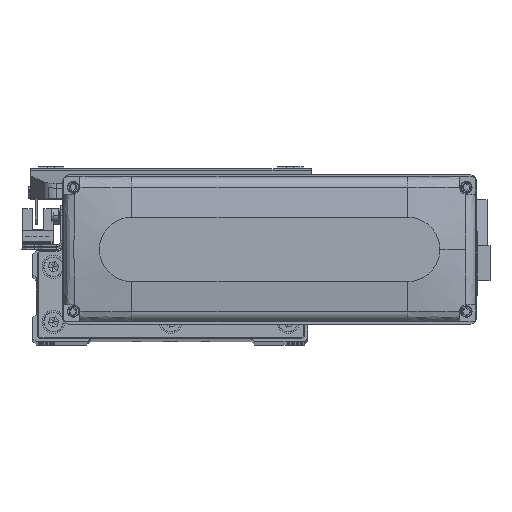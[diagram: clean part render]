
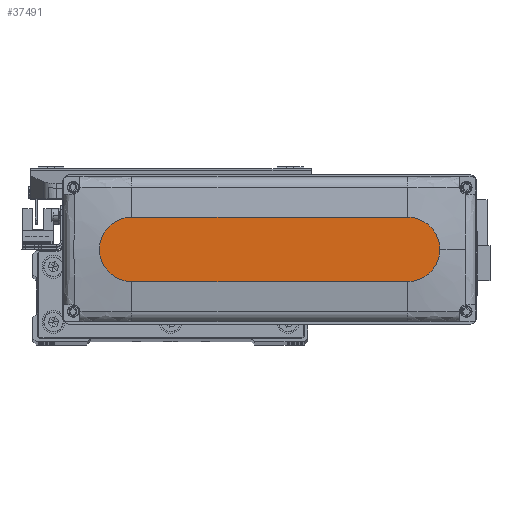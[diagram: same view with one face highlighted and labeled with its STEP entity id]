
A CAD part, top view. The second image highlights one B-rep face of the part: STEP entity #37491.
In plain terms, the highlighted planar face has unit normal (0, 0, 1).
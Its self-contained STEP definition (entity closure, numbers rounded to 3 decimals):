
#1010 = AXIS2_PLACEMENT_3D ( 'NONE', #1335, #5055, #33389 ) ;
#1335 = CARTESIAN_POINT ( 'NONE',  ( -60., 0., 28.5 ) ) ;
#2689 = FACE_OUTER_BOUND ( 'NONE', #24965, .T. ) ;
#2800 = CARTESIAN_POINT ( 'NONE',  ( 60., -14., 28.5 ) ) ;
#5055 = DIRECTION ( 'NONE',  ( 0., 0., 1. ) ) ;
#5251 = VERTEX_POINT ( 'NONE', #15203 ) ;
#6270 = VECTOR ( 'NONE', #38584, 1000. ) ;
#7460 = ORIENTED_EDGE ( 'NONE', *, *, #19648, .T. ) ;
#10545 = CARTESIAN_POINT ( 'NONE',  ( 60., 0., 28.5 ) ) ;
#11811 = EDGE_CURVE ( 'NONE', #5251, #43481, #47924, .T. ) ;
#15203 = CARTESIAN_POINT ( 'NONE',  ( -60., 14., 28.5 ) ) ;
#15847 = DIRECTION ( 'NONE',  ( 1., 0., 0. ) ) ;
#18288 = VERTEX_POINT ( 'NONE', #2800 ) ;
#18431 = PLANE ( 'NONE',  #23956 ) ;
#19648 = EDGE_CURVE ( 'NONE', #50178, #20806, #24082, .T. ) ;
#20806 = VERTEX_POINT ( 'NONE', #40809 ) ;
#22721 = DIRECTION ( 'NONE',  ( 1., 0., 0. ) ) ;
#23252 = CARTESIAN_POINT ( 'NONE',  ( 0., 0., 28.5 ) ) ;
#23667 = CARTESIAN_POINT ( 'NONE',  ( -60., -14., 28.5 ) ) ;
#23926 = LINE ( 'NONE', #23667, #40004 ) ;
#23956 = AXIS2_PLACEMENT_3D ( 'NONE', #23252, #34474, #22721 ) ;
#24082 = CIRCLE ( 'NONE', #27467, 14. ) ;
#24965 = EDGE_LOOP ( 'NONE', ( #30318, #35061, #41777, #25128, #7460 ) ) ;
#25128 = ORIENTED_EDGE ( 'NONE', *, *, #33009, .T. ) ;
#26889 = EDGE_CURVE ( 'NONE', #43481, #18288, #23926, .T. ) ;
#27467 = AXIS2_PLACEMENT_3D ( 'NONE', #10545, #52483, #15847 ) ;
#30298 = LINE ( 'NONE', #46345, #6270 ) ;
#30318 = ORIENTED_EDGE ( 'NONE', *, *, #40112, .T. ) ;
#32319 = DIRECTION ( 'NONE',  ( 1., 0., 0. ) ) ;
#33009 = EDGE_CURVE ( 'NONE', #18288, #50178, #48667, .T. ) ;
#33389 = DIRECTION ( 'NONE',  ( 1., 0., 0. ) ) ;
#34474 = DIRECTION ( 'NONE',  ( 0., 0., 1. ) ) ;
#35061 = ORIENTED_EDGE ( 'NONE', *, *, #11811, .T. ) ;
#37491 = ADVANCED_FACE ( 'NONE', ( #2689 ), #18431, .T. ) ;
#38584 = DIRECTION ( 'NONE',  ( -1., 0., 0. ) ) ;
#39055 = CARTESIAN_POINT ( 'NONE',  ( 74., 0., 28.5 ) ) ;
#40004 = VECTOR ( 'NONE', #52789, 1000. ) ;
#40112 = EDGE_CURVE ( 'NONE', #20806, #5251, #30298, .T. ) ;
#40809 = CARTESIAN_POINT ( 'NONE',  ( 60., 14., 28.5 ) ) ;
#41777 = ORIENTED_EDGE ( 'NONE', *, *, #26889, .T. ) ;
#42546 = CARTESIAN_POINT ( 'NONE',  ( -60., -14., 28.5 ) ) ;
#43481 = VERTEX_POINT ( 'NONE', #42546 ) ;
#46345 = CARTESIAN_POINT ( 'NONE',  ( -60., 14., 28.5 ) ) ;
#47924 = CIRCLE ( 'NONE', #1010, 14. ) ;
#48103 = DIRECTION ( 'NONE',  ( 0., 0., 1. ) ) ;
#48667 = CIRCLE ( 'NONE', #51221, 14. ) ;
#50178 = VERTEX_POINT ( 'NONE', #39055 ) ;
#51221 = AXIS2_PLACEMENT_3D ( 'NONE', #52643, #48103, #32319 ) ;
#52483 = DIRECTION ( 'NONE',  ( 0., 0., 1. ) ) ;
#52643 = CARTESIAN_POINT ( 'NONE',  ( 60., 0., 28.5 ) ) ;
#52789 = DIRECTION ( 'NONE',  ( 1., 0., 0. ) ) ;
